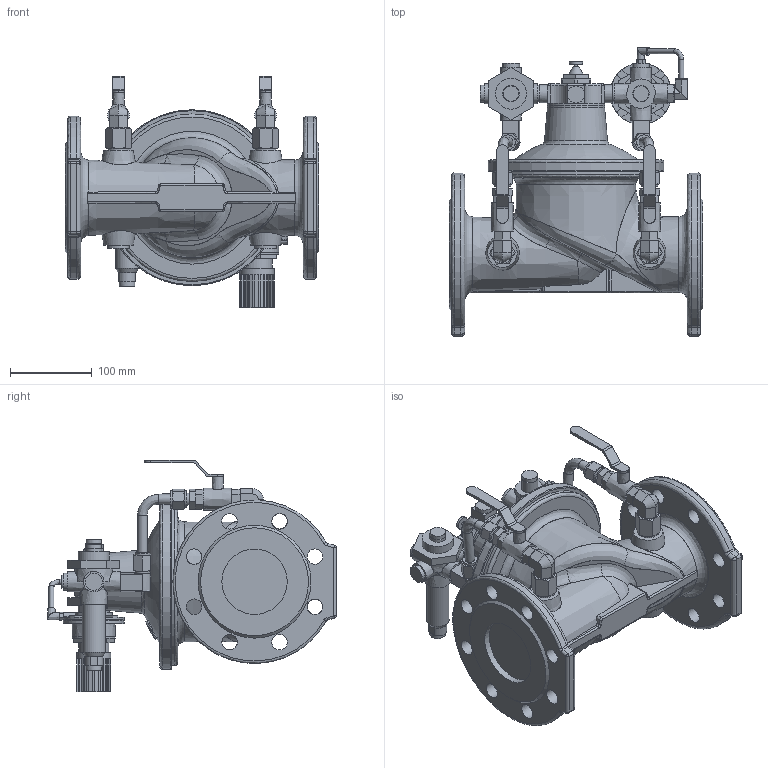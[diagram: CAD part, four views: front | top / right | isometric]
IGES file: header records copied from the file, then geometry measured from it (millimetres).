
Start section: SolidWorks IGES file using analytic representation for surfaces
Global section: file name: \\avksan2\techshare\PBM outline export from Enovia\O_859_00_DN080_1XXXX00_REV01.igs; native system: SolidWorks 2019; preprocessor: SolidWorks 2019; author: pbm; date: 201117.125422; units: millimetre
Bounding box: 310 x 353.03 x 282.79 mm (x, y, z)
Surface area: 459533.7 mm2 (no closed solid volume)
Topology: 0 solids, 0 shells, 844 faces, 4062 edges, 3940 vertices
Faces by surface type: bspline 542, revolution 302
